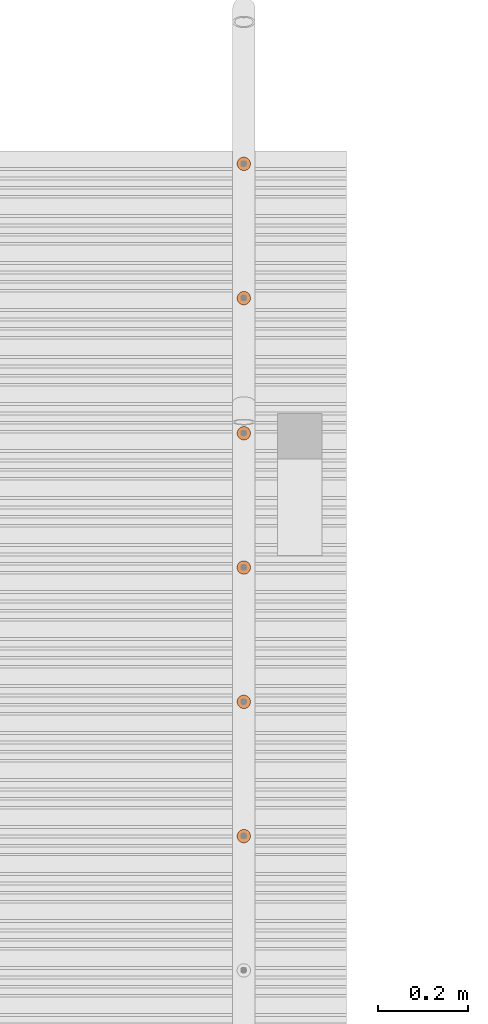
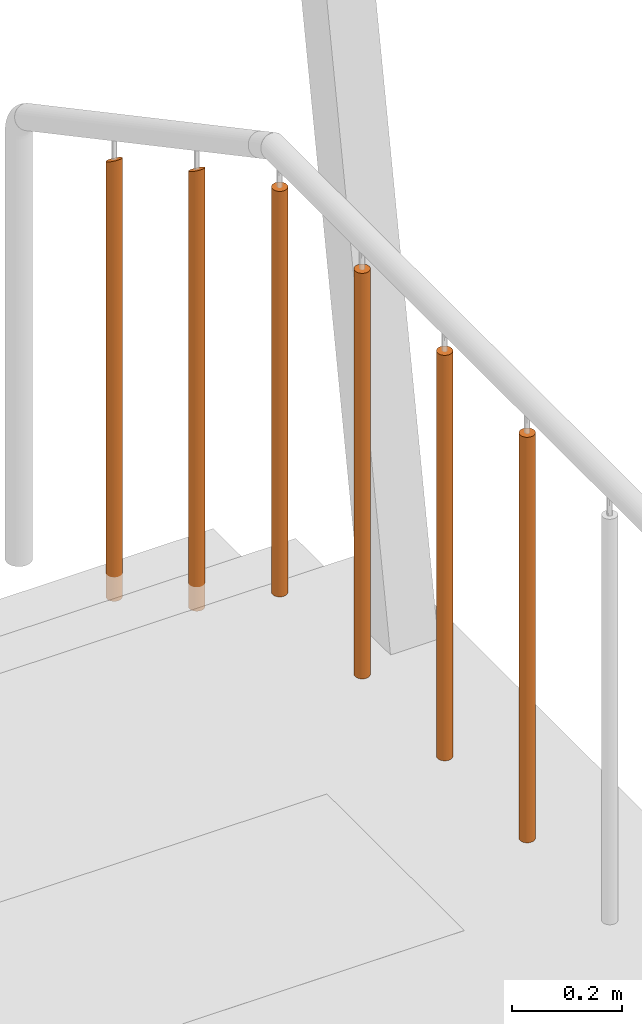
# One storey, part 364 of 418: 6 proxies, 1 element without a shape of its own.
"""IFC2X3 building model written with IfcOpenShell, lengths in millimetres."""

from ifc_helpers import new_model, entity, si_unit, converted_unit, derived_unit, money_unit, direction, frame, origin_with_axes, place, context, subcontext, project, spatial, faceted_brep, source, transform, mapped, material, type_object, element, aggregate, save


model = new_model("IFC2X3")

# Units and contexts
model_context = context("Model", 3, precision=0.01, world=origin_with_axes(), true_north=direction((0.0, 1.0)))
body_context = subcontext(model_context, "Body", "Model", "MODEL_VIEW")
ifc_project = project(units=[si_unit("LENGTHUNIT", "METRE", prefix="MILLI"), si_unit("AREAUNIT", "SQUARE_METRE"), si_unit("VOLUMEUNIT", "CUBIC_METRE"), converted_unit("PLANEANGLEUNIT", "DEGREE", entity("IfcPlaneAngleMeasure", 0.0174532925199), si_unit("PLANEANGLEUNIT", "RADIAN"), dimensions=[0, 0, 0, 0, 0, 0, 0]), si_unit("SOLIDANGLEUNIT", "STERADIAN"), money_unit("EUR"), converted_unit("TIMEUNIT", "Year", entity("IfcTimeMeasure", 31556926.0), si_unit("TIMEUNIT", "SECOND"), dimensions=[0, 0, 1, 0, 0, 0, 0]), si_unit("MASSUNIT", "GRAM", prefix="KILO"), si_unit("THERMODYNAMICTEMPERATUREUNIT", "DEGREE_CELSIUS"), si_unit("LUMINOUSINTENSITYUNIT", "LUMEN"), si_unit("ENERGYUNIT", "JOULE", prefix="MEGA"), derived_unit("THERMALCONDUCTANCEUNIT", [(si_unit("POWERUNIT", "WATT"), 1), (si_unit("LENGTHUNIT", "METRE"), -1), (si_unit("THERMODYNAMICTEMPERATUREUNIT", "KELVIN"), -1)]), derived_unit("SPECIFICHEATCAPACITYUNIT", [(si_unit("ENERGYUNIT", "JOULE"), 1), (si_unit("MASSUNIT", "GRAM", prefix="KILO"), -1), (si_unit("THERMODYNAMICTEMPERATUREUNIT", "KELVIN"), -1)]), derived_unit("MASSDENSITYUNIT", [(si_unit("MASSUNIT", "GRAM", prefix="KILO"), 1), (si_unit("VOLUMEUNIT", "CUBIC_METRE"), -1)])], contexts=[model_context])

# Site, building, storey
site_placement = place(None, origin_with_axes())
site = spatial("IfcSite", under=ifc_project, at=site_placement, Name="Paldiski mnt 245/1, Tallinn, Harjumaa", CompositionType="COMPLEX")
building_placement = place(site_placement, origin_with_axes())
building = spatial("IfcBuilding", under=site, at=building_placement, Name="RKAS Hoone üldnimetus (kasutust iseloomustav) -> IFC Project Manager -> SOLIBRI", CompositionType="ELEMENT")
storey_placement = place(building_placement, origin_with_axes())
storey = spatial("IfcBuildingStorey", under=building, at=storey_placement, Name="Esimene korrus", CompositionType="ELEMENT", Elevation=0.0)

# Proxies
building_element_proxy_type_1 = type_object("IfcBuildingElementProxyType", Name="Railing Type", PredefinedType="NOTDEFINED")
proxy_1_placement = place(storey_placement, frame((-36811.0, 460.000000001, -500.846302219), z_axis=(0.0, 0.0, 1.0), x_axis=(1.0, 0.0, 0.0)))
proxy_1 = element("IfcBuildingElementProxy", 1, at=proxy_1_placement, inside=storey, type_object=building_element_proxy_type_1, Name="Trepipiire")
ifc_material = material(Name="RAL7016")
building_element_proxy_type_2 = type_object("IfcBuildingElementProxyType", Name="IfcBuildingElementProxy", PredefinedType="NOTDEFINED")
shared_shape_1 = source(origin_with_axes(), body_context, "Body", "Brep", [
    faceted_brep([(0.0, -15.0, 0.0), (2.604722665, -14.7721162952, 0.0), (2.604722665, -14.7721162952, 900.0), (0.0, -15.0, 900.0), (-2.604722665, -14.7721162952, 0.0), (-5.13030214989, -14.0953893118, 0.0), (-7.5, -12.9903810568, 0.0), (-9.6418141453, -11.4906666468, 0.0), (-11.4906666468, -9.6418141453, 0.0), (-12.9903810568, -7.5, 0.0), (-14.0953893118, -5.13030214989, 0.0), (-14.7721162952, -2.604722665, 0.0), (-15.0, 0.0, 0.0), (-14.7721162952, 2.604722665, 0.0), (-14.0953893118, 5.13030214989, 0.0), (-12.9903810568, 7.5, 0.0), (-11.4906666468, 9.6418141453, 0.0), (-9.6418141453, 11.4906666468, 0.0), (-7.5, 12.9903810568, 0.0), (-5.13030214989, 14.0953893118, 0.0), (-2.604722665, 14.7721162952, 0.0), (0.0, 15.0, 0.0), (2.604722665, 14.7721162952, 0.0), (5.13030214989, 14.0953893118, 0.0), (7.5, 12.9903810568, 0.0), (9.6418141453, 11.4906666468, 0.0), (11.4906666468, 9.6418141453, 0.0), (12.9903810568, 7.5, 0.0), (14.0953893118, 5.13030214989, 0.0), (14.7721162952, 2.604722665, 0.0), (15.0, 0.0, 0.0), (14.7721162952, -2.604722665, 0.0), (14.0953893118, -5.13030214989, 0.0), (12.9903810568, -7.5, 0.0), (11.4906666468, -9.6418141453, 0.0), (9.6418141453, -11.4906666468, 0.0), (7.5, -12.9903810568, 0.0), (5.13030214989, -14.0953893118, 0.0), (5.13030214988, -14.0953893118, 900.0), (7.49999999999, -12.9903810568, 900.0), (9.64181414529, -11.4906666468, 900.0), (11.4906666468, -9.6418141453, 900.0), (12.9903810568, -7.5, 900.0), (14.0953893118, -5.13030214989, 900.0), (14.7721162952, -2.60472266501, 900.0), (15.0, 0.0, 900.0), (14.7721162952, 2.604722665, 900.0), (14.0953893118, 5.13030214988, 900.0), (12.9903810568, 7.5, 900.0), (11.4906666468, 9.64181414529, 900.0), (9.64181414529, 11.4906666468, 900.0), (7.49999999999, 12.9903810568, 900.0), (5.13030214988, 14.0953893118, 900.0), (2.604722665, 14.7721162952, 900.0), (0.0, 15.0, 900.0), (-2.60472266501, 14.7721162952, 900.0), (-5.13030214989, 14.0953893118, 900.0), (-7.50000000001, 12.9903810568, 900.0), (-9.64181414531, 11.4906666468, 900.0), (-11.4906666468, 9.64181414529, 900.0), (-12.9903810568, 7.5, 900.0), (-14.0953893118, 5.13030214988, 900.0), (-14.7721162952, 2.604722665, 900.0), (-15.0, 0.0, 900.0), (-14.7721162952, -2.60472266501, 900.0), (-14.0953893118, -5.13030214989, 900.0), (-12.9903810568, -7.5, 900.0), (-11.4906666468, -9.6418141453, 900.0), (-9.64181414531, -11.4906666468, 900.0), (-7.50000000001, -12.9903810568, 900.0), (-5.13030214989, -14.0953893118, 900.0), (-2.60472266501, -14.7721162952, 900.0)], [[[0, 1, 2, 3]], [[0, 4, 5, 6, 7, 8, 9, 10, 11, 12, 13, 14, 15, 16, 17, 18, 19, 20, 21, 22, 23, 24, 25, 26, 27, 28, 29, 30, 31, 32, 33, 34, 35, 36, 37, 1]], [[1, 37, 38, 2]], [[3, 2, 38, 39, 40, 41, 42, 43, 44, 45, 46, 47, 48, 49, 50, 51, 52, 53, 54, 55, 56, 57, 58, 59, 60, 61, 62, 63, 64, 65, 66, 67, 68, 69, 70, 71]], [[4, 0, 3, 71]], [[5, 4, 71, 70]], [[6, 5, 70, 69]], [[7, 6, 69, 68]], [[8, 7, 68, 67]], [[9, 8, 67, 66]], [[10, 9, 66, 65]], [[11, 10, 65, 64]], [[12, 11, 64, 63]], [[13, 12, 63, 62]], [[14, 13, 62, 61]], [[15, 14, 61, 60]], [[16, 15, 60, 59]], [[17, 16, 59, 58]], [[18, 17, 58, 57]], [[19, 18, 57, 56]], [[20, 19, 56, 55]], [[21, 20, 55, 54]], [[22, 21, 54, 53]], [[23, 22, 53, 52]], [[24, 23, 52, 51]], [[25, 24, 51, 50]], [[26, 25, 50, 49]], [[27, 26, 49, 48]], [[28, 27, 48, 47]], [[29, 28, 47, 46]], [[30, 29, 46, 45]], [[31, 30, 45, 44]], [[32, 31, 44, 43]], [[33, 32, 43, 42]], [[34, 33, 42, 41]], [[35, 34, 41, 40]], [[36, 35, 40, 39]], [[37, 36, 39, 38]]]),
])
proxy_2_placement = place(proxy_1_placement, frame((0.0, 1638.47966623, 480.846302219), z_axis=(0.0, 0.0, 1.0), x_axis=(1.0, 0.0, 0.0)))
proxy_2 = element("IfcBuildingElementProxy", 2, at=proxy_2_placement, type_object=building_element_proxy_type_2, material=ifc_material, Name="SISEPOST - 001", context=body_context, shape_type="MappedRepresentation", body=[
    mapped(shared_shape_1, transform((0.0, 0.0, 0.0))),
])
shared_shape_2 = source(origin_with_axes(), body_context, "Body", "Brep", [
    faceted_brep([(0.0, -15.0, 0.0), (2.604722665, -14.7721162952, 0.0), (2.604722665, -14.7721162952, 900.0), (0.0, -15.0, 900.0), (-2.604722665, -14.7721162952, 0.0), (-5.13030214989, -14.0953893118, 0.0), (-7.5, -12.9903810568, 0.0), (-9.6418141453, -11.4906666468, 0.0), (-11.4906666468, -9.6418141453, 0.0), (-12.9903810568, -7.5, 0.0), (-14.0953893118, -5.13030214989, 0.0), (-14.7721162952, -2.604722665, 0.0), (-15.0, 0.0, 0.0), (-14.7721162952, 2.604722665, 0.0), (-14.0953893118, 5.13030214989, 0.0), (-12.9903810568, 7.5, 0.0), (-11.4906666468, 9.6418141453, 0.0), (-9.6418141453, 11.4906666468, 0.0), (-7.5, 12.9903810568, 0.0), (-5.13030214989, 14.0953893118, 0.0), (-2.604722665, 14.7721162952, 0.0), (0.0, 15.0, 0.0), (2.604722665, 14.7721162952, 0.0), (5.13030214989, 14.0953893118, 0.0), (7.5, 12.9903810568, 0.0), (9.6418141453, 11.4906666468, 0.0), (11.4906666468, 9.6418141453, 0.0), (12.9903810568, 7.5, 0.0), (14.0953893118, 5.13030214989, 0.0), (14.7721162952, 2.604722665, 0.0), (15.0, 0.0, 0.0), (14.7721162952, -2.604722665, 0.0), (14.0953893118, -5.13030214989, 0.0), (12.9903810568, -7.5, 0.0), (11.4906666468, -9.6418141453, 0.0), (9.6418141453, -11.4906666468, 0.0), (7.5, -12.9903810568, 0.0), (5.13030214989, -14.0953893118, 0.0), (5.13030214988, -14.0953893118, 900.0), (7.49999999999, -12.9903810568, 900.0), (9.64181414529, -11.4906666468, 900.0), (11.4906666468, -9.6418141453, 900.0), (12.9903810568, -7.5, 900.0), (14.0953893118, -5.13030214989, 900.0), (14.7721162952, -2.60472266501, 900.0), (15.0, 0.0, 900.0), (14.7721162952, 2.604722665, 900.0), (14.0953893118, 5.13030214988, 900.0), (12.9903810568, 7.5, 900.0), (11.4906666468, 9.64181414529, 900.0), (9.64181414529, 11.4906666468, 900.0), (7.49999999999, 12.9903810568, 900.0), (5.13030214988, 14.0953893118, 900.0), (2.604722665, 14.7721162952, 900.0), (0.0, 15.0, 900.0), (-2.60472266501, 14.7721162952, 900.0), (-5.13030214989, 14.0953893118, 900.0), (-7.50000000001, 12.9903810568, 900.0), (-9.64181414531, 11.4906666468, 900.0), (-11.4906666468, 9.64181414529, 900.0), (-12.9903810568, 7.5, 900.0), (-14.0953893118, 5.13030214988, 900.0), (-14.7721162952, 2.604722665, 900.0), (-15.0, 0.0, 900.0), (-14.7721162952, -2.60472266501, 900.0), (-14.0953893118, -5.13030214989, 900.0), (-12.9903810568, -7.5, 900.0), (-11.4906666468, -9.6418141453, 900.0), (-9.64181414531, -11.4906666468, 900.0), (-7.50000000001, -12.9903810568, 900.0), (-5.13030214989, -14.0953893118, 900.0), (-2.60472266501, -14.7721162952, 900.0)], [[[0, 1, 2, 3]], [[0, 4, 5, 6, 7, 8, 9, 10, 11, 12, 13, 14, 15, 16, 17, 18, 19, 20, 21, 22, 23, 24, 25, 26, 27, 28, 29, 30, 31, 32, 33, 34, 35, 36, 37, 1]], [[1, 37, 38, 2]], [[3, 2, 38, 39, 40, 41, 42, 43, 44, 45, 46, 47, 48, 49, 50, 51, 52, 53, 54, 55, 56, 57, 58, 59, 60, 61, 62, 63, 64, 65, 66, 67, 68, 69, 70, 71]], [[4, 0, 3, 71]], [[5, 4, 71, 70]], [[6, 5, 70, 69]], [[7, 6, 69, 68]], [[8, 7, 68, 67]], [[9, 8, 67, 66]], [[10, 9, 66, 65]], [[11, 10, 65, 64]], [[12, 11, 64, 63]], [[13, 12, 63, 62]], [[14, 13, 62, 61]], [[15, 14, 61, 60]], [[16, 15, 60, 59]], [[17, 16, 59, 58]], [[18, 17, 58, 57]], [[19, 18, 57, 56]], [[20, 19, 56, 55]], [[21, 20, 55, 54]], [[22, 21, 54, 53]], [[23, 22, 53, 52]], [[24, 23, 52, 51]], [[25, 24, 51, 50]], [[26, 25, 50, 49]], [[27, 26, 49, 48]], [[28, 27, 48, 47]], [[29, 28, 47, 46]], [[30, 29, 46, 45]], [[31, 30, 45, 44]], [[32, 31, 44, 43]], [[33, 32, 43, 42]], [[34, 33, 42, 41]], [[35, 34, 41, 40]], [[36, 35, 40, 39]], [[37, 36, 39, 38]]]),
])
proxy_3_placement = place(proxy_1_placement, frame((0.0, 738.479666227, 480.846302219), z_axis=(0.0, 0.0, 1.0), x_axis=(1.0, 0.0, 0.0)))
proxy_3 = element("IfcBuildingElementProxy", 3, at=proxy_3_placement, type_object=building_element_proxy_type_2, material=ifc_material, Name="SISEPOST - 001", context=body_context, shape_type="MappedRepresentation", body=[
    mapped(shared_shape_2, transform((0.0, 0.0, 0.0))),
])
proxy_4_placement = place(proxy_1_placement, frame((0.0, 1038.47966623, 480.846302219), z_axis=(0.0, 0.0, 1.0), x_axis=(1.0, 0.0, 0.0)))
proxy_4 = element("IfcBuildingElementProxy", 4, at=proxy_4_placement, type_object=building_element_proxy_type_2, material=ifc_material, Name="SISEPOST - 001", context=body_context, shape_type="MappedRepresentation", body=[
    mapped(shared_shape_2, transform((0.0, 0.0, 0.0))),
])
proxy_5_placement = place(proxy_1_placement, frame((0.0, 1338.47966623, 480.846302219), z_axis=(0.0, 0.0, 1.0), x_axis=(1.0, 0.0, 0.0)))
proxy_5 = element("IfcBuildingElementProxy", 5, at=proxy_5_placement, type_object=building_element_proxy_type_2, material=ifc_material, Name="SISEPOST - 001", context=body_context, shape_type="MappedRepresentation", body=[
    mapped(shared_shape_2, transform((0.0, 0.0, 0.0))),
])
shared_shape_3 = source(origin_with_axes(), body_context, "Body", "Brep", [
    faceted_brep([(0.0, -15.0, 0.0), (2.604722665, -14.7721162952, 0.0), (2.604722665, -14.7721162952, 978.321357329), (0.0, -15.0, 978.44307705), (-2.604722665, -14.7721162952, 0.0), (-5.13030214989, -14.0953893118, 0.0), (-7.5, -12.9903810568, 0.0), (-9.6418141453, -11.4906666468, 0.0), (-11.4906666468, -9.6418141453, 0.0), (-12.9903810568, -7.5, 0.0), (-14.0953893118, -5.13030214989, 0.0), (-14.7721162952, -2.604722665, 0.0), (-15.0, 0.0, 0.0), (-14.7721162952, 2.604722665, 0.0), (-14.0953893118, 5.13030214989, 0.0), (-12.9903810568, 7.5, 0.0), (-11.4906666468, 9.6418141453, 0.0), (-9.6418141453, 11.4906666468, 0.0), (-7.5, 12.9903810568, 0.0), (-5.13030214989, 14.0953893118, 0.0), (-2.604722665, 14.7721162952, 0.0), (0.0, 15.0, 0.0), (2.604722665, 14.7721162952, 0.0), (5.13030214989, 14.0953893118, 0.0), (7.5, 12.9903810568, 0.0), (9.6418141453, 11.4906666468, 0.0), (11.4906666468, 9.6418141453, 0.0), (12.9903810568, 7.5, 0.0), (14.0953893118, 5.13030214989, 0.0), (14.7721162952, 2.604722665, 0.0), (15.0, 0.0, 0.0), (14.7721162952, -2.604722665, 0.0), (14.0953893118, -5.13030214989, 0.0), (12.9903810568, -7.5, 0.0), (11.4906666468, -9.6418141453, 0.0), (9.6418141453, -11.4906666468, 0.0), (7.5, -12.9903810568, 0.0), (5.13030214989, -14.0953893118, 0.0), (5.13030214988, -14.0953893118, 977.959896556), (7.5, -12.9903810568, 977.369677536), (9.6418141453, -11.4906666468, 976.568633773), (11.4906666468, -9.6418141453, 975.581104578), (12.9903810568, -7.5, 974.437095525), (14.0953893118, -5.13030214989, 973.171366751), (14.7721162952, -2.60472266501, 971.822376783), (15.0, 0.0, 970.431114), (14.7721162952, 2.604722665, 969.039851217), (14.0953893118, 5.13030214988, 967.690861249), (12.9903810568, 7.5, 966.425132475), (11.4906666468, 9.64181414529, 965.281123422), (9.6418141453, 11.4906666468, 964.293594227), (7.5, 12.9903810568, 963.492550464), (5.13030214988, 14.0953893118, 962.902331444), (2.604722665, 14.7721162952, 962.540870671), (0.0, 15.0, 962.41915095), (-2.604722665, 14.7721162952, 962.540870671), (-5.13030214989, 14.0953893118, 962.902331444), (-7.5, 12.9903810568, 963.492550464), (-9.6418141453, 11.4906666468, 964.293594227), (-11.4906666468, 9.64181414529, 965.281123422), (-12.9903810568, 7.5, 966.425132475), (-14.0953893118, 5.13030214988, 967.690861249), (-14.7721162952, 2.604722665, 969.039851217), (-15.0, 0.0, 970.431114), (-14.7721162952, -2.60472266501, 971.822376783), (-14.0953893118, -5.13030214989, 973.171366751), (-12.9903810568, -7.5, 974.437095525), (-11.4906666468, -9.6418141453, 975.581104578), (-9.6418141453, -11.4906666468, 976.568633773), (-7.5, -12.9903810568, 977.369677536), (-5.13030214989, -14.0953893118, 977.959896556), (-2.604722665, -14.7721162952, 978.321357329)], [[[0, 1, 2, 3]], [[0, 4, 5, 6, 7, 8, 9, 10, 11, 12, 13, 14, 15, 16, 17, 18, 19, 20, 21, 22, 23, 24, 25, 26, 27, 28, 29, 30, 31, 32, 33, 34, 35, 36, 37, 1]], [[1, 37, 38, 2]], [[3, 2, 38, 39, 40, 41, 42, 43, 44, 45, 46, 47, 48, 49, 50, 51, 52, 53, 54, 55, 56, 57, 58, 59, 60, 61, 62, 63, 64, 65, 66, 67, 68, 69, 70, 71]], [[4, 0, 3, 71]], [[5, 4, 71, 70]], [[6, 5, 70, 69]], [[7, 6, 69, 68]], [[8, 7, 68, 67]], [[9, 8, 67, 66]], [[10, 9, 66, 65]], [[11, 10, 65, 64]], [[12, 11, 64, 63]], [[13, 12, 63, 62]], [[14, 13, 62, 61]], [[15, 14, 61, 60]], [[16, 15, 60, 59]], [[17, 16, 59, 58]], [[18, 17, 58, 57]], [[19, 18, 57, 56]], [[20, 19, 56, 55]], [[21, 20, 55, 54]], [[22, 21, 54, 53]], [[23, 22, 53, 52]], [[24, 23, 52, 51]], [[25, 24, 51, 50]], [[26, 25, 50, 49]], [[27, 26, 49, 48]], [[28, 27, 48, 47]], [[29, 28, 47, 46]], [[30, 29, 46, 45]], [[31, 30, 45, 44]], [[32, 31, 44, 43]], [[33, 32, 43, 42]], [[34, 33, 42, 41]], [[35, 34, 41, 40]], [[36, 35, 40, 39]], [[37, 36, 39, 38]]]),
])
proxy_6_placement = place(proxy_1_placement, frame((0.0, 1940.34235828, 265.910430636), z_axis=(0.0, 0.0, 1.0), x_axis=(1.0, 0.0, 0.0)))
proxy_6 = element("IfcBuildingElementProxy", 6, at=proxy_6_placement, type_object=building_element_proxy_type_2, material=ifc_material, Name="SISEPOST - 001", context=body_context, shape_type="MappedRepresentation", body=[
    mapped(shared_shape_3, transform((0.0, 0.0, 0.0))),
])
shared_shape_4 = source(origin_with_axes(), body_context, "Body", "Brep", [
    faceted_brep([(0.0, -15.0, 0.0), (2.604722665, -14.7721162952, 0.0), (2.604722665, -14.7721162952, 978.082096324), (0.0, -15.0, 978.203816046), (-2.604722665, -14.7721162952, 0.0), (-5.13030214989, -14.0953893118, 0.0), (-7.5, -12.9903810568, 0.0), (-9.6418141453, -11.4906666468, 0.0), (-11.4906666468, -9.6418141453, 0.0), (-12.9903810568, -7.5, 0.0), (-14.0953893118, -5.13030214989, 0.0), (-14.7721162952, -2.604722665, 0.0), (-15.0, 0.0, 0.0), (-14.7721162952, 2.604722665, 0.0), (-14.0953893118, 5.13030214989, 0.0), (-12.9903810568, 7.5, 0.0), (-11.4906666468, 9.6418141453, 0.0), (-9.6418141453, 11.4906666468, 0.0), (-7.5, 12.9903810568, 0.0), (-5.13030214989, 14.0953893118, 0.0), (-2.604722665, 14.7721162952, 0.0), (0.0, 15.0, 0.0), (2.604722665, 14.7721162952, 0.0), (5.13030214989, 14.0953893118, 0.0), (7.5, 12.9903810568, 0.0), (9.6418141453, 11.4906666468, 0.0), (11.4906666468, 9.6418141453, 0.0), (12.9903810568, 7.5, 0.0), (14.0953893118, 5.13030214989, 0.0), (14.7721162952, 2.604722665, 0.0), (15.0, 0.0, 0.0), (14.7721162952, -2.604722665, 0.0), (14.0953893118, -5.13030214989, 0.0), (12.9903810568, -7.5, 0.0), (11.4906666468, -9.6418141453, 0.0), (9.6418141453, -11.4906666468, 0.0), (7.5, -12.9903810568, 0.0), (5.13030214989, -14.0953893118, 0.0), (5.13030214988, -14.0953893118, 977.720635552), (7.5, -12.9903810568, 977.130416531), (9.6418141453, -11.4906666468, 976.329372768), (11.4906666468, -9.6418141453, 975.341843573), (12.9903810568, -7.5, 974.19783452), (14.0953893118, -5.13030214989, 972.932105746), (14.7721162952, -2.60472266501, 971.583115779), (15.0, 0.0, 970.191852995), (14.7721162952, 2.604722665, 968.800590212), (14.0953893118, 5.13030214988, 967.451600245), (12.9903810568, 7.5, 966.18587147), (11.4906666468, 9.64181414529, 965.041862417), (9.6418141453, 11.4906666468, 964.054333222), (7.5, 12.9903810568, 963.25328946), (5.13030214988, 14.0953893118, 962.663070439), (2.604722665, 14.7721162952, 962.301609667), (0.0, 15.0, 962.179889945), (-2.604722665, 14.7721162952, 962.301609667), (-5.13030214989, 14.0953893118, 962.663070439), (-7.5, 12.9903810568, 963.25328946), (-9.6418141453, 11.4906666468, 964.054333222), (-11.4906666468, 9.64181414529, 965.041862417), (-12.9903810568, 7.5, 966.18587147), (-14.0953893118, 5.13030214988, 967.451600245), (-14.7721162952, 2.604722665, 968.800590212), (-15.0, 0.0, 970.191852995), (-14.7721162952, -2.60472266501, 971.583115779), (-14.0953893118, -5.13030214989, 972.932105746), (-12.9903810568, -7.5, 974.19783452), (-11.4906666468, -9.6418141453, 975.341843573), (-9.6418141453, -11.4906666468, 976.329372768), (-7.5, -12.9903810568, 977.130416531), (-5.13030214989, -14.0953893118, 977.720635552), (-2.604722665, -14.7721162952, 978.082096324)], [[[0, 1, 2, 3]], [[0, 4, 5, 6, 7, 8, 9, 10, 11, 12, 13, 14, 15, 16, 17, 18, 19, 20, 21, 22, 23, 24, 25, 26, 27, 28, 29, 30, 31, 32, 33, 34, 35, 36, 37, 1]], [[1, 37, 38, 2]], [[3, 2, 38, 39, 40, 41, 42, 43, 44, 45, 46, 47, 48, 49, 50, 51, 52, 53, 54, 55, 56, 57, 58, 59, 60, 61, 62, 63, 64, 65, 66, 67, 68, 69, 70, 71]], [[4, 0, 3, 71]], [[5, 4, 71, 70]], [[6, 5, 70, 69]], [[7, 6, 69, 68]], [[8, 7, 68, 67]], [[9, 8, 67, 66]], [[10, 9, 66, 65]], [[11, 10, 65, 64]], [[12, 11, 64, 63]], [[13, 12, 63, 62]], [[14, 13, 62, 61]], [[15, 14, 61, 60]], [[16, 15, 60, 59]], [[17, 16, 59, 58]], [[18, 17, 58, 57]], [[19, 18, 57, 56]], [[20, 19, 56, 55]], [[21, 20, 55, 54]], [[22, 21, 54, 53]], [[23, 22, 53, 52]], [[24, 23, 52, 51]], [[25, 24, 51, 50]], [[26, 25, 50, 49]], [[27, 26, 49, 48]], [[28, 27, 48, 47]], [[29, 28, 47, 46]], [[30, 29, 46, 45]], [[31, 30, 45, 44]], [[32, 31, 44, 43]], [[33, 32, 43, 42]], [[34, 33, 42, 41]], [[35, 34, 41, 40]], [[36, 35, 40, 39]], [[37, 36, 39, 38]]]),
])
proxy_7_placement = place(proxy_1_placement, frame((0.0, 2240.34235828, 105.910430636), z_axis=(0.0, 0.0, 1.0), x_axis=(1.0, 0.0, 0.0)))
proxy_7 = element("IfcBuildingElementProxy", 7, at=proxy_7_placement, type_object=building_element_proxy_type_2, material=ifc_material, Name="SISEPOST - 001", context=body_context, shape_type="MappedRepresentation", body=[
    mapped(shared_shape_4, transform((0.0, 0.0, 0.0))),
])
aggregate(proxy_1, [proxy_3, proxy_4, proxy_5, proxy_2, proxy_6, proxy_7])

save(model, "model.ifc")
